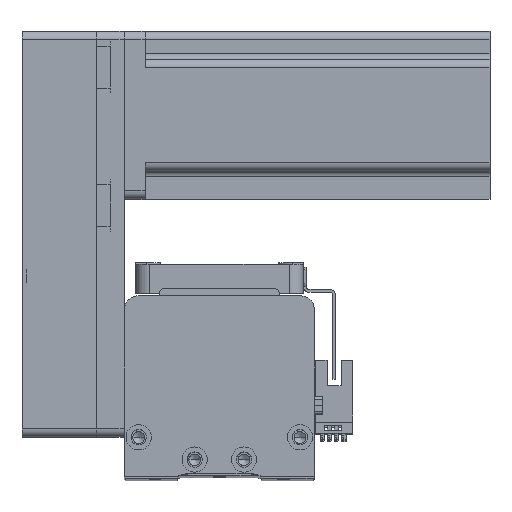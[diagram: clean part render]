
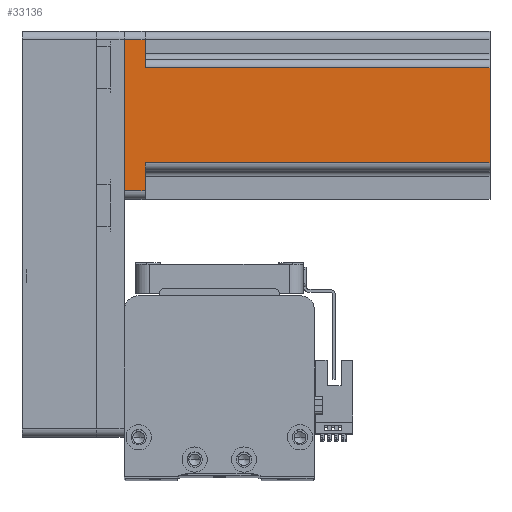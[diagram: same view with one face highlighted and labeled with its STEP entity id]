
A CAD part, top view. The second image highlights one B-rep face of the part: STEP entity #33136.
In plain terms, the highlighted planar face has unit normal (0, 0, 1) as drawn and (0, 1, 0) by its records, which use the part's own axes.
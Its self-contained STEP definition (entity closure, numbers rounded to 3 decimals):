
#906 = ORIENTED_EDGE ( 'NONE', *, *, #40055, .F. ) ;
#1080 = DIRECTION ( 'NONE',  ( -1., 0., 0. ) ) ;
#1148 = LINE ( 'NONE', #17219, #2218 ) ;
#1189 = DIRECTION ( 'NONE',  ( 0., -1., 0. ) ) ;
#1828 = CARTESIAN_POINT ( 'NONE',  ( 17., 30., 130.7 ) ) ;
#2078 = AXIS2_PLACEMENT_3D ( 'NONE', #21671, #1189, #25083 ) ;
#2218 = VECTOR ( 'NONE', #41075, 1000. ) ;
#3223 = LINE ( 'NONE', #41360, #21382 ) ;
#3959 = DIRECTION ( 'NONE',  ( -1., 0., 0. ) ) ;
#4318 = LINE ( 'NONE', #16195, #22471 ) ;
#5083 = VERTEX_POINT ( 'NONE', #39510 ) ;
#6289 = VECTOR ( 'NONE', #39005, 1000. ) ;
#7696 = LINE ( 'NONE', #40691, #15699 ) ;
#7939 = PLANE ( 'NONE',  #2078 ) ;
#8740 = CARTESIAN_POINT ( 'NONE',  ( -27., 30., 0. ) ) ;
#9550 = EDGE_CURVE ( 'NONE', #18523, #5083, #3223, .T. ) ;
#10674 = CARTESIAN_POINT ( 'NONE',  ( 30., 30., 130.7 ) ) ;
#13413 = VECTOR ( 'NONE', #3959, 1000. ) ;
#13988 = LINE ( 'NONE', #38533, #39050 ) ;
#14024 = LINE ( 'NONE', #26160, #39083 ) ;
#14418 = CARTESIAN_POINT ( 'NONE',  ( 17., 30., 7.5 ) ) ;
#15006 = CARTESIAN_POINT ( 'NONE',  ( 30., 30., 0. ) ) ;
#15324 = ORIENTED_EDGE ( 'NONE', *, *, #25597, .T. ) ;
#15357 = LINE ( 'NONE', #15006, #6289 ) ;
#15699 = VECTOR ( 'NONE', #20266, 1000. ) ;
#16195 = CARTESIAN_POINT ( 'NONE',  ( -20., 30., 7.5 ) ) ;
#16415 = CARTESIAN_POINT ( 'NONE',  ( -27., 30., 7.5 ) ) ;
#16742 = VERTEX_POINT ( 'NONE', #14418 ) ;
#16950 = VERTEX_POINT ( 'NONE', #1828 ) ;
#17219 = CARTESIAN_POINT ( 'NONE',  ( 17., 30., 130.7 ) ) ;
#18523 = VERTEX_POINT ( 'NONE', #34421 ) ;
#19319 = EDGE_CURVE ( 'NONE', #20450, #38554, #14024, .T. ) ;
#19638 = CARTESIAN_POINT ( 'NONE',  ( -17., 30., 7.5 ) ) ;
#20266 = DIRECTION ( 'NONE',  ( 0., 0., 1. ) ) ;
#20450 = VERTEX_POINT ( 'NONE', #19638 ) ;
#20686 = EDGE_CURVE ( 'NONE', #16950, #38554, #22489, .T. ) ;
#20915 = FACE_OUTER_BOUND ( 'NONE', #40528, .T. ) ;
#21382 = VECTOR ( 'NONE', #24222, 1000. ) ;
#21671 = CARTESIAN_POINT ( 'NONE',  ( 30., 30., 130.7 ) ) ;
#22471 = VECTOR ( 'NONE', #29772, 1000. ) ;
#22489 = LINE ( 'NONE', #10674, #13413 ) ;
#22559 = EDGE_CURVE ( 'NONE', #5083, #32697, #15357, .T. ) ;
#24126 = ORIENTED_EDGE ( 'NONE', *, *, #20686, .F. ) ;
#24222 = DIRECTION ( 'NONE',  ( 0., 0., -1. ) ) ;
#25083 = DIRECTION ( 'NONE',  ( 1., 0., 0. ) ) ;
#25334 = ORIENTED_EDGE ( 'NONE', *, *, #9550, .T. ) ;
#25597 = EDGE_CURVE ( 'NONE', #32697, #39113, #7696, .T. ) ;
#26160 = CARTESIAN_POINT ( 'NONE',  ( -17., 30., 130.7 ) ) ;
#26274 = EDGE_CURVE ( 'NONE', #16950, #16742, #1148, .T. ) ;
#26863 = ORIENTED_EDGE ( 'NONE', *, *, #19319, .T. ) ;
#29772 = DIRECTION ( 'NONE',  ( 1., 0., 0. ) ) ;
#32697 = VERTEX_POINT ( 'NONE', #8740 ) ;
#33136 = ADVANCED_FACE ( 'NONE', ( #20915 ), #7939, .F. ) ;
#34421 = CARTESIAN_POINT ( 'NONE',  ( 27., 30., 7.5 ) ) ;
#36429 = DIRECTION ( 'NONE',  ( 0., 0., 1. ) ) ;
#36506 = ORIENTED_EDGE ( 'NONE', *, *, #26274, .T. ) ;
#36514 = ORIENTED_EDGE ( 'NONE', *, *, #37191, .T. ) ;
#36648 = ORIENTED_EDGE ( 'NONE', *, *, #22559, .T. ) ;
#37191 = EDGE_CURVE ( 'NONE', #39113, #20450, #4318, .T. ) ;
#38533 = CARTESIAN_POINT ( 'NONE',  ( 20., 30., 7.5 ) ) ;
#38554 = VERTEX_POINT ( 'NONE', #42974 ) ;
#39005 = DIRECTION ( 'NONE',  ( -1., 0., 0. ) ) ;
#39050 = VECTOR ( 'NONE', #1080, 1000. ) ;
#39083 = VECTOR ( 'NONE', #36429, 1000. ) ;
#39113 = VERTEX_POINT ( 'NONE', #16415 ) ;
#39510 = CARTESIAN_POINT ( 'NONE',  ( 27., 30., 0. ) ) ;
#40055 = EDGE_CURVE ( 'NONE', #18523, #16742, #13988, .T. ) ;
#40528 = EDGE_LOOP ( 'NONE', ( #36514, #26863, #24126, #36506, #906, #25334, #36648, #15324 ) ) ;
#40691 = CARTESIAN_POINT ( 'NONE',  ( -27., 30., 130.7 ) ) ;
#41075 = DIRECTION ( 'NONE',  ( 0., 0., -1. ) ) ;
#41360 = CARTESIAN_POINT ( 'NONE',  ( 27., 30., 130.7 ) ) ;
#42974 = CARTESIAN_POINT ( 'NONE',  ( -17., 30., 130.7 ) ) ;
